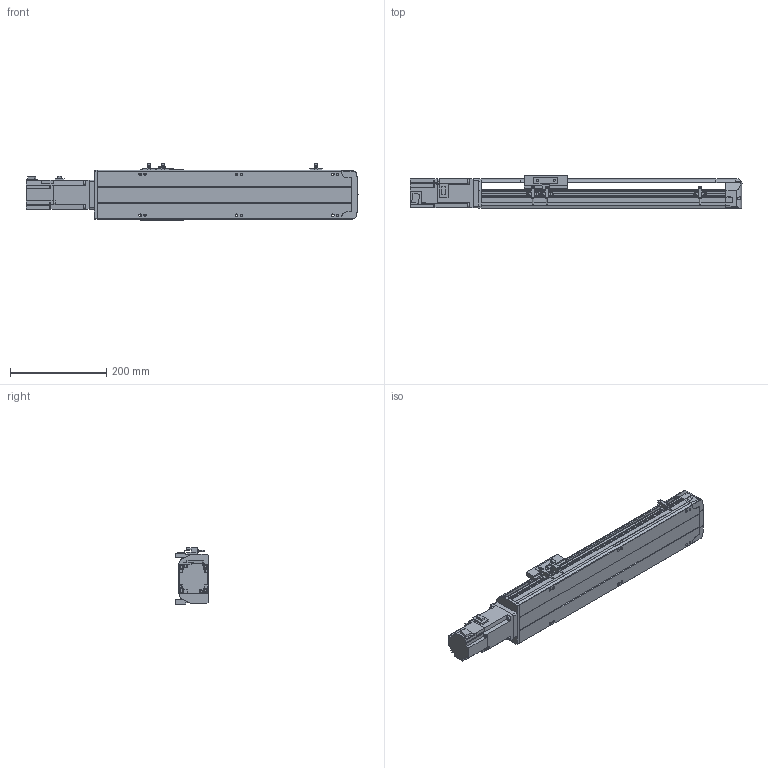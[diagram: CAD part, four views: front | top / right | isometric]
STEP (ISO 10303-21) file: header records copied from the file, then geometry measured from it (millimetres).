
FILE_DESCRIPTION(/* description */ ('STEP AP214'),/* implementation_level */ '2;1');
FILE_NAME(/* name */ 'PSS120-L10-S300-BC-T40-C1-N(0)',/* time_stamp */ '2022-06-02T02:32:57+02:00',/* author */ ('License CC BY-ND 4.0'),/* organization */ ('CADENAS'),/* preprocessor_version */ 'ST-DEVELOPER v18.102',/* originating_system */ 'PARTsolutions',/* authorisation */ ' ');
FILE_SCHEMA (('AUTOMOTIVE_DESIGN {1 0 10303 214 3 1 1}'));
Length unit declared in the file: millimetre
Products named in the file (8): PSS120-L10-S300-BC-T40-C1-N(0); PSS120-S300-BC-N_S; T40-p1; PSS120BC-N_h; PSS120-N_sensor; PSS120-BC-C1-N_sl; PSS120-N_Q; PSS120-S300-BC-C1-N_body
Assembly tree (9 placements, depth 2):
  PSS120-L10-S300-BC-T40-C1-N(0)
    PSS120-S300-BC-N_S
    T40-p1
    PSS120BC-N_h
    PSS120-N_sensor  x3
    PSS120-BC-C1-N_sl
    PSS120-N_Q
    PSS120-S300-BC-C1-N_body
Bounding box: 688.7 x 70 x 117.7 mm (x, y, z)
Volume: 2282632.9 mm3; surface area: 419339.2 mm2
Topology: 9 solids, 9 shells, 785 faces, 2104 edges, 1396 vertices
Faces by surface type: plane 541, cylinder 226, cone 18
Full cylindrical faces by diameter (mm): 2.8 x3, 4 x4, 4.134 x10, 4.2 x4, 4.4 x2, 4.5 x4, 4.6 x3, 4.917 x4, 5 x6, 5.5 x13, 7 x2, 8 x8, 8.5 x10, 14 x1, 28 x1, 32 x1, 50 x1
Entity records: 21046 total; most frequent: CARTESIAN_POINT 3780, DIRECTION 3525, ORIENTED_EDGE 3430, EDGE_CURVE 1715, LINE 1223, VECTOR 1223, VERTEX_POINT 1190, AXIS2_PLACEMENT_3D 1151
